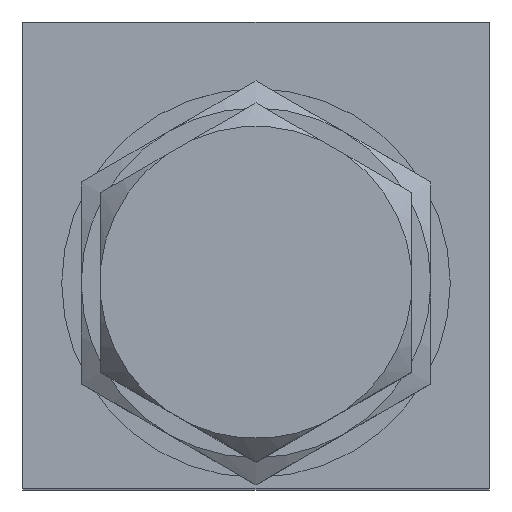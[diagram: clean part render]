
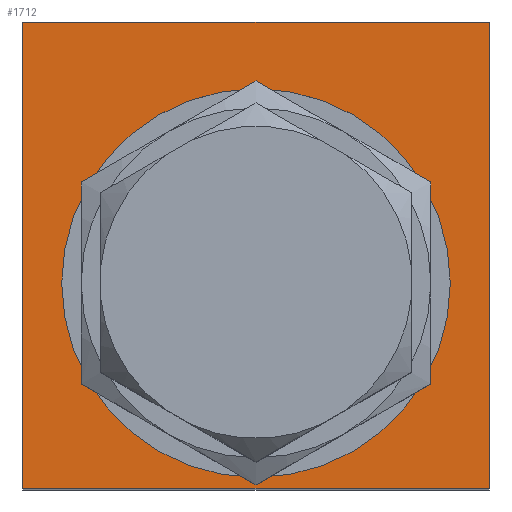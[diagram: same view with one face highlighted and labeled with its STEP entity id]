
A CAD part, top view. The second image highlights one B-rep face of the part: STEP entity #1712.
In plain terms, the highlighted planar face has unit normal (0, 0, 1).
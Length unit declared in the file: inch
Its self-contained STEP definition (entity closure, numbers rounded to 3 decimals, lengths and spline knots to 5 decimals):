
#1662=CARTESIAN_POINT('',(0.0,0.09,0.0));
#1663=DIRECTION('',(0.0,0.0,1.0));
#1664=DIRECTION('',(1.0,0.0,0.0));
#1665=AXIS2_PLACEMENT_3D('',#1662,#1663,#1664);
#1666=PLANE('',#1665);
#1667=CARTESIAN_POINT('',(-0.75,0.84,0.0));
#1668=VERTEX_POINT('',#1667);
#1669=CARTESIAN_POINT('',(0.75,0.84,0.0));
#1670=VERTEX_POINT('',#1669);
#1671=CARTESIAN_POINT('',(-0.75,0.84,0.0));
#1672=DIRECTION('',(1.0,0.0,0.0));
#1673=VECTOR('',#1672,1.5);
#1674=LINE('',#1671,#1673);
#1675=EDGE_CURVE('',#1668,#1670,#1674,.T.);
#1676=ORIENTED_EDGE('',*,*,#1675,.F.);
#1677=CARTESIAN_POINT('',(-0.75,-0.66,0.0));
#1678=VERTEX_POINT('',#1677);
#1679=CARTESIAN_POINT('',(-0.75,-0.66,0.0));
#1680=DIRECTION('',(0.0,1.0,0.0));
#1681=VECTOR('',#1680,1.5);
#1682=LINE('',#1679,#1681);
#1683=EDGE_CURVE('',#1678,#1668,#1682,.T.);
#1684=ORIENTED_EDGE('',*,*,#1683,.F.);
#1685=CARTESIAN_POINT('',(0.75,-0.66,0.0));
#1686=VERTEX_POINT('',#1685);
#1687=CARTESIAN_POINT('',(0.75,-0.66,0.0));
#1688=DIRECTION('',(-1.0,0.0,0.0));
#1689=VECTOR('',#1688,1.5);
#1690=LINE('',#1687,#1689);
#1691=EDGE_CURVE('',#1686,#1678,#1690,.T.);
#1692=ORIENTED_EDGE('',*,*,#1691,.F.);
#1693=CARTESIAN_POINT('',(0.75,0.84,0.0));
#1694=DIRECTION('',(0.0,-1.0,0.0));
#1695=VECTOR('',#1694,1.5);
#1696=LINE('',#1693,#1695);
#1697=EDGE_CURVE('',#1670,#1686,#1696,.T.);
#1698=ORIENTED_EDGE('',*,*,#1697,.F.);
#1699=EDGE_LOOP('',(#1676,#1684,#1692,#1698));
#1700=FACE_OUTER_BOUND('',#1699,.T.);
#1701=CARTESIAN_POINT('',(0.0,0.625,0.0));
#1702=VERTEX_POINT('',#1701);
#1703=CARTESIAN_POINT('',(0.0,0.,0.0));
#1704=DIRECTION('',(0.0,0.0,-1.0));
#1705=DIRECTION('',(1.0,0.0,0.0));
#1706=AXIS2_PLACEMENT_3D('',#1703,#1704,#1705);
#1707=CIRCLE('',#1706,0.625);
#1708=EDGE_CURVE('',#1702,#1702,#1707,.T.);
#1709=ORIENTED_EDGE('',*,*,#1708,.T.);
#1710=EDGE_LOOP('',(#1709));
#1711=FACE_BOUND('',#1710,.T.);
#1712=ADVANCED_FACE('',(#1700,#1711),#1666,.T.);
